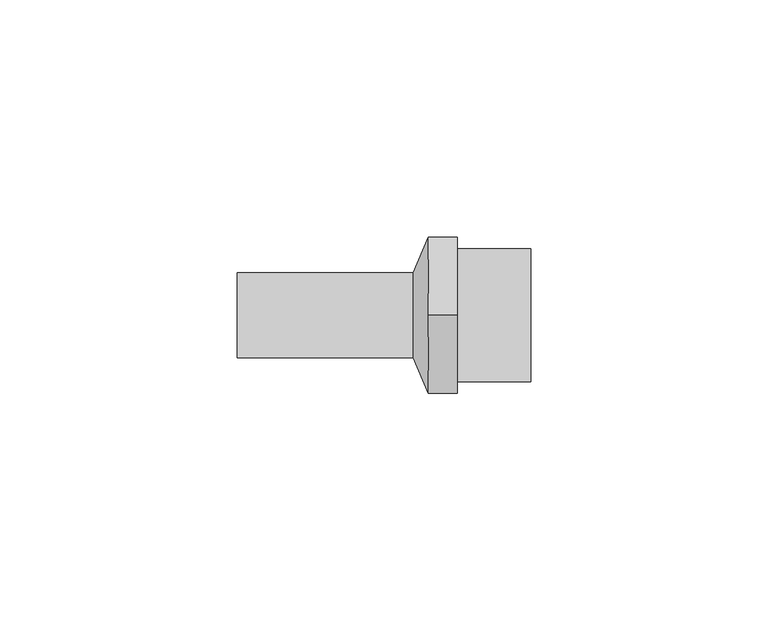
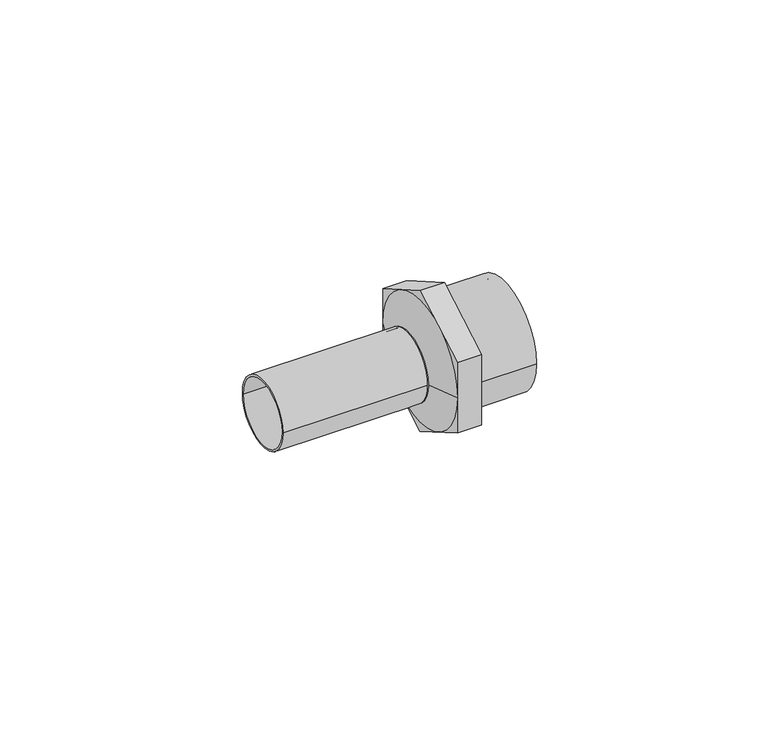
"""IFC4 building model written with IfcOpenShell, lengths in millimetres: pipe fitting geometry, VALTEC_VTi.906.I_Вставка с наружной резьбой нержавеющая сталь : VTi.906.I."""

from ifc_helpers import new_model, si_unit, point, frame, origin, origin_2d, place, context, project, spatial, polyline, circle_curve, trimmed, segment, composite_curve, outline, extrude, source, transform, mapped, element, save
from ifc_brep_helpers import plane_surface, revolved_surface, advanced_brep


def pipe_fitting_c23c9d7b(model_context):
    return source(origin(), model_context, "Body", "SolidModel", [
        extrude(outline(composite_curve([segment(trimmed(circle_curve(origin_2d(), 14.0), [point((-14.0, 0.0))], [point((14.0, 0.0))], False, "CARTESIAN"), True, "CONTINUOUS"), segment(trimmed(circle_curve(origin_2d(), 14.0), [point((14.0, 0.0))], [point((-14.0, 0.0))], False, "CARTESIAN"), True, "CONTINUOUS")], self_intersect=False), holes=[composite_curve([segment(trimmed(circle_curve(origin_2d(), 12.5), [point((-12.5, 0.0))], [point((12.5, 0.0))], True, "CARTESIAN"), True, "CONTINUOUS"), segment(trimmed(circle_curve(origin_2d(), 12.5), [point((12.5, 0.0))], [point((-12.5, 0.0))], True, "CARTESIAN"), True, "CONTINUOUS")], self_intersect=False)]), frame((46.5, 0.0, 0.0), z_axis=(1.0, 0.0, 0.0), x_axis=(0.0, 1.0, 0.0)), (0.0, 0.0, 1.0), 15.5),
        advanced_brep(
        [(40.3, -16.5, 0.0), (40.3, 16.5, 0.0), (37.2, -9.0, 0.0), (37.2, 9.0, 0.0)],
        [
            (0, 1, circle_curve(frame((40.3, 0.0, 0.0), z_axis=(1.0, 0.0, 0.0), x_axis=(0.0, -1.0, 0.0)), 16.5)),
            (1, 0, circle_curve(frame((40.3, 0.0, 0.0), z_axis=(1.0, 0.0, 0.0), x_axis=(0.0, 1.0, 0.0)), 16.5)),
            (2, 3, circle_curve(frame((37.2, 0.0, 0.0), z_axis=(-1.0, 0.0, 0.0), x_axis=(0.0, 1.0, 0.0)), 9.0)),
            (3, 2, circle_curve(frame((37.2, 0.0, 0.0), z_axis=(-1.0, 0.0, 0.0), x_axis=(0.0, -1.0, 0.0)), 9.0)),
            (3, 1),
            (0, 2),
        ],
        [
            plane_surface(frame((40.3, 0.0, 0.0), z_axis=(1.0, 0.0, 0.0), x_axis=(0.0, 0.0, -1.0))),
            plane_surface(frame((37.2, 0.0, 0.0), z_axis=(-1.0, 0.0, 0.0), x_axis=(0.0, 0.0, -1.0))),
            revolved_surface(polyline([(37.2, 9.000000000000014, 0.0), (40.3, 16.5, 0.0)]), (33.48, 0.0, 0.0), (1.0, 0.0, 0.0)),
            revolved_surface(polyline([(37.2, -9.000000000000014, 0.0), (40.3, -16.5, 0.0)]), (33.48, 0.0, 0.0), (1.0, 0.0, 0.0)),
        ],
        [
            (0, [[1, 2]]),
            (1, [[3, 4]]),
            (2, [[-4, 5, -1, 6]]),
            (3, [[-3, -6, -2, -5]]),
        ],
    ),
        extrude(outline(polyline([(0.0, 19.0525589), (16.5, 9.5262794), (16.5, -9.5262794), (0.0, -19.0525589), (-16.5, -9.5262794), (-16.5, 9.5262794), (0.0, 19.0525589)]), holes=[composite_curve([segment(trimmed(circle_curve(origin_2d(), 12.5), [point((-12.5, 0.0))], [point((12.5, 0.0))], True, "CARTESIAN"), True, "CONTINUOUS"), segment(trimmed(circle_curve(origin_2d(), 12.5), [point((12.5, 0.0))], [point((-12.5, 0.0))], True, "CARTESIAN"), True, "CONTINUOUS")], self_intersect=False)]), frame((40.3, 0.0, 0.0), z_axis=(1.0, 0.0, 0.0), x_axis=(0.0, 1.0, 0.0)), (0.0, 0.0, 1.0), 6.2),
        extrude(outline(composite_curve([segment(trimmed(circle_curve(origin_2d(), 9.0), [point((-9.0, 0.0))], [point((9.0, 0.0))], False, "CARTESIAN"), True, "CONTINUOUS"), segment(trimmed(circle_curve(origin_2d(), 9.0), [point((9.0, 0.0))], [point((-9.0, 0.0))], False, "CARTESIAN"), True, "CONTINUOUS")], self_intersect=False), holes=[composite_curve([segment(trimmed(circle_curve(origin_2d(), 8.5), [point((-8.5, 0.0))], [point((8.5, 0.0))], True, "CARTESIAN"), True, "CONTINUOUS"), segment(trimmed(circle_curve(origin_2d(), 8.5), [point((8.5, 0.0))], [point((-8.5, 0.0))], True, "CARTESIAN"), True, "CONTINUOUS")], self_intersect=False)]), frame((0.0, 0.0, 0.0), z_axis=(1.0, 0.0, 0.0), x_axis=(0.0, 1.0, 0.0)), (0.0, 0.0, 1.0), 37.2),
    ])


if __name__ == "__main__":
    model = new_model("IFC4")
    model_context = context("Model", 3, world=origin())
    ifc_project = project(units=[si_unit("LENGTHUNIT", "METRE", prefix="MILLI")], contexts=[model_context])
    site = spatial("IfcSite", under=ifc_project)
    building = spatial("IfcBuilding", under=site)
    placement = place(None, origin())
    pipe_fitting_shape = pipe_fitting_c23c9d7b(model_context)
    element("IfcPipeFitting", 1, ObjectType="VALTEC_VTi.906.I_Вставка с наружной резьбой нержавеющая сталь : VTi.906.I", at=placement, inside=building, context=model_context, shape_type="MappedRepresentation", body=[
        mapped(pipe_fitting_shape, transform((0.0, 0.0, 0.0), x_axis=(1.0, 0.0, 0.0), y_axis=(0.0, 1.0, 0.0), z_axis=(0.0, 0.0, 1.0))),
    ])
    save(model, "model.ifc")
